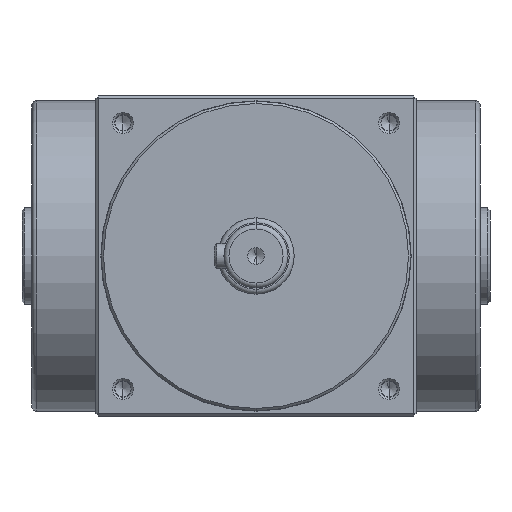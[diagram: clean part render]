
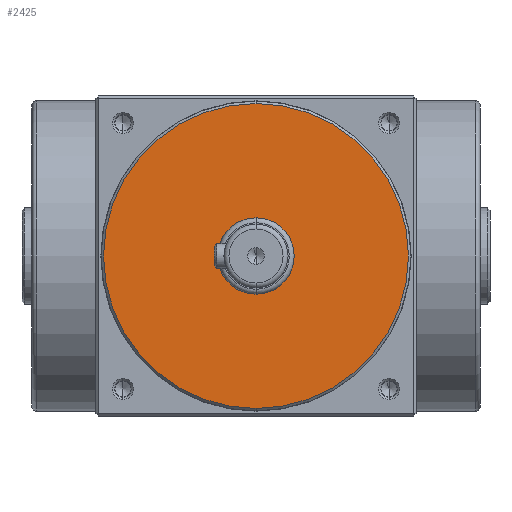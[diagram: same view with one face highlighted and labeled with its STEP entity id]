
A CAD part, front view. The second image highlights one B-rep face of the part: STEP entity #2425.
In plain terms, the highlighted planar face has unit normal (0, -1, 0).
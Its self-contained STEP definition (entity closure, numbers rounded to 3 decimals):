
#131 = AXIS2_PLACEMENT_3D ( 'NONE', #7366, #4341, #2006 ) ;
#432 = PLANE ( 'NONE',  #9571 ) ;
#615 = AXIS2_PLACEMENT_3D ( 'NONE', #2636, #2667, #1169 ) ;
#715 = CIRCLE ( 'NONE', #3493, 30.95 ) ;
#845 = EDGE_LOOP ( 'NONE', ( #6775, #7727 ) ) ;
#955 = EDGE_LOOP ( 'NONE', ( #5171, #5841 ) ) ;
#1169 = DIRECTION ( 'NONE',  ( 0., 0., -1. ) ) ;
#1756 = CARTESIAN_POINT ( 'NONE',  ( 0., -73.5, 0. ) ) ;
#1772 = EDGE_CURVE ( 'NONE', #5224, #4364, #4236, .T. ) ;
#2006 = DIRECTION ( 'NONE',  ( 0., 0., -1. ) ) ;
#2425 = ADVANCED_FACE ( 'NONE', ( #3536, #5525 ), #432, .T. ) ;
#2452 = DIRECTION ( 'NONE',  ( 0., 0., -1. ) ) ;
#2636 = CARTESIAN_POINT ( 'NONE',  ( 0., -73.5, 0. ) ) ;
#2667 = DIRECTION ( 'NONE',  ( 0., -1., 0. ) ) ;
#3483 = EDGE_CURVE ( 'NONE', #4364, #5224, #6589, .T. ) ;
#3493 = AXIS2_PLACEMENT_3D ( 'NONE', #1756, #4743, #2452 ) ;
#3503 = DIRECTION ( 'NONE',  ( 0., -1., 0. ) ) ;
#3536 = FACE_OUTER_BOUND ( 'NONE', #955, .T. ) ;
#3707 = CARTESIAN_POINT ( 'NONE',  ( 0., -73.5, 30.95 ) ) ;
#3862 = CARTESIAN_POINT ( 'NONE',  ( 0., -73.5, 7.75 ) ) ;
#4236 = CIRCLE ( 'NONE', #7718, 7.75 ) ;
#4341 = DIRECTION ( 'NONE',  ( 0., -1., 0. ) ) ;
#4364 = VERTEX_POINT ( 'NONE', #3862 ) ;
#4743 = DIRECTION ( 'NONE',  ( 0., -1., 0. ) ) ;
#5171 = ORIENTED_EDGE ( 'NONE', *, *, #5476, .T. ) ;
#5209 = VERTEX_POINT ( 'NONE', #5955 ) ;
#5224 = VERTEX_POINT ( 'NONE', #5335 ) ;
#5312 = DIRECTION ( 'NONE',  ( 0., -1., 0. ) ) ;
#5335 = CARTESIAN_POINT ( 'NONE',  ( 0., -73.5, -7.75 ) ) ;
#5476 = EDGE_CURVE ( 'NONE', #7632, #5209, #9703, .T. ) ;
#5525 = FACE_BOUND ( 'NONE', #845, .T. ) ;
#5702 = DIRECTION ( 'NONE',  ( 0., 0., -1. ) ) ;
#5841 = ORIENTED_EDGE ( 'NONE', *, *, #7354, .T. ) ;
#5955 = CARTESIAN_POINT ( 'NONE',  ( 0., -73.5, -30.95 ) ) ;
#6508 = CARTESIAN_POINT ( 'NONE',  ( 0., -73.5, 0. ) ) ;
#6589 = CIRCLE ( 'NONE', #131, 7.75 ) ;
#6775 = ORIENTED_EDGE ( 'NONE', *, *, #3483, .F. ) ;
#7354 = EDGE_CURVE ( 'NONE', #5209, #7632, #715, .T. ) ;
#7366 = CARTESIAN_POINT ( 'NONE',  ( 0., -73.5, 0. ) ) ;
#7453 = DIRECTION ( 'NONE',  ( 0., 0., -1. ) ) ;
#7632 = VERTEX_POINT ( 'NONE', #3707 ) ;
#7718 = AXIS2_PLACEMENT_3D ( 'NONE', #9824, #5312, #7453 ) ;
#7727 = ORIENTED_EDGE ( 'NONE', *, *, #1772, .F. ) ;
#9571 = AXIS2_PLACEMENT_3D ( 'NONE', #6508, #3503, #5702 ) ;
#9703 = CIRCLE ( 'NONE', #615, 30.95 ) ;
#9824 = CARTESIAN_POINT ( 'NONE',  ( 0., -73.5, 0. ) ) ;
